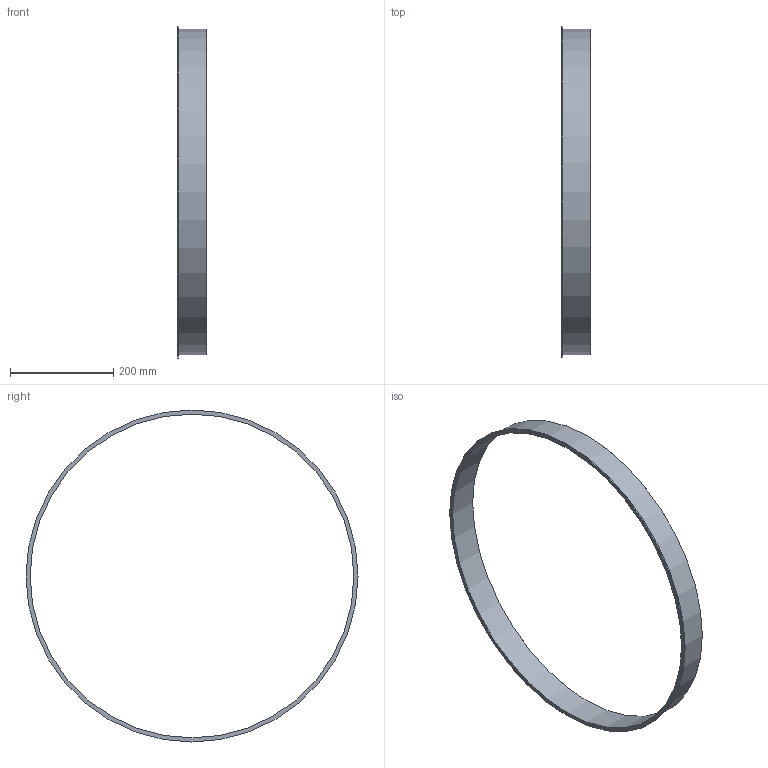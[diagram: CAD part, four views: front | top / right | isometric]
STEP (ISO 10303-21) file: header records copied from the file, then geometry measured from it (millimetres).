
FILE_DESCRIPTION((''),'2;1');
FILE_NAME('U:\Wolfgang\Marcel-3D\fertig\Kapitel 1\6321012.stp','2010-05-31T12:41:11',('TK2'),(''),'Autodesk Inventor 2010','Autodesk Inventor 2010','');
FILE_SCHEMA(('AUTOMOTIVE_DESIGN { 1 0 10303 214 1 1 1 1 }'));
Length unit declared in the file: millimetre
Products named in the file (1): 6321012
Bounding box: 55 x 644 x 644 mm (x, y, z)
Volume: 241764.4 mm3; surface area: 249756.6 mm2
Topology: 1 solids, 1 shells, 6 faces, 9 edges, 6 vertices
Faces by surface type: cylinder 3, plane 3
Full cylindrical faces by diameter (mm): 628 x1, 632 x1, 644 x1
Entity records: 154 total; most frequent: DIRECTION 26, CARTESIAN_POINT 19, AXIS2_PLACEMENT_3D 13, ORIENTED_EDGE 12, EDGE_LOOP 12, VERTEX_POINT 6, CIRCLE 6, EDGE_CURVE 6
